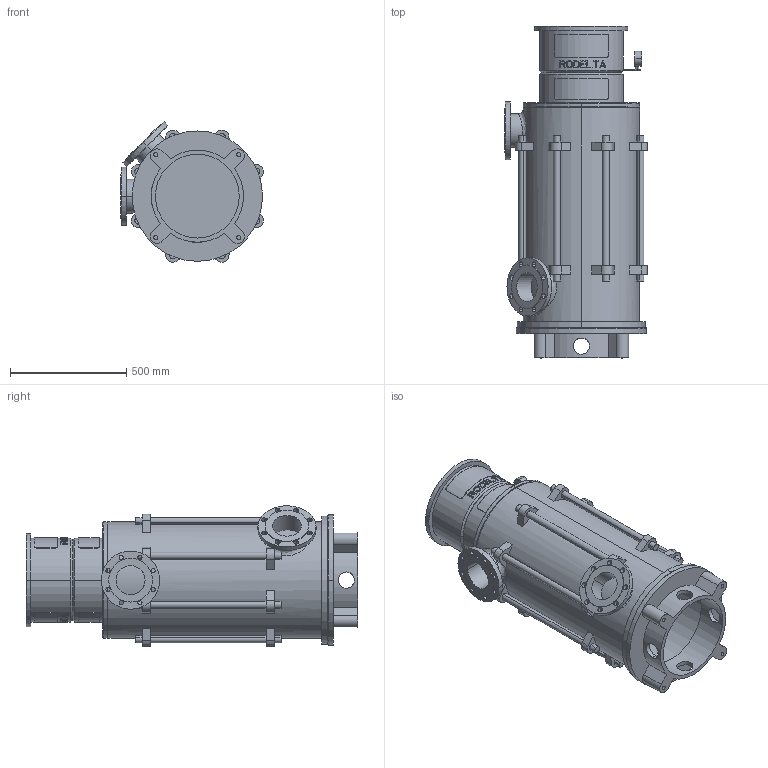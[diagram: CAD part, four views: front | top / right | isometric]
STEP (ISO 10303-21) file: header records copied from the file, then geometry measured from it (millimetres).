
FILE_DESCRIPTION((''),'2;1');
FILE_NAME('LS5_5TR_0GR_TOT_30KW','2023-08-08T',('Lyritlocal'),(''),'PRO/ENGINEER BY PARAMETRIC TECHNOLOGY CORPORATION, 2016360','PRO/ENGINEER BY PARAMETRIC TECHNOLOGY CORPORATION, 2016360','');
FILE_SCHEMA(('CONFIG_CONTROL_DESIGN'));
Length unit declared in the file: millimetre
Products named in the file (1): LS5_5TR_0GR_TOT_30KW
Bounding box: 614.04 x 1426 x 603.65 mm (x, y, z)
Volume: 40130389 mm3; surface area: 5860042.9 mm2
Topology: 3 solids, 7 shells, 672 faces, 1747 edges, 1158 vertices
Faces by surface type: plane 414, cylinder 242, cone 12, bspline 4
Entity records: 22012 total; most frequent: CARTESIAN_POINT 5568, ORIENTED_EDGE 3478, DIRECTION 3269, EDGE_CURVE 1747, AXIS2_PLACEMENT_3D 1241, VERTEX_POINT 1158, EDGE_LOOP 809, VECTOR 787
